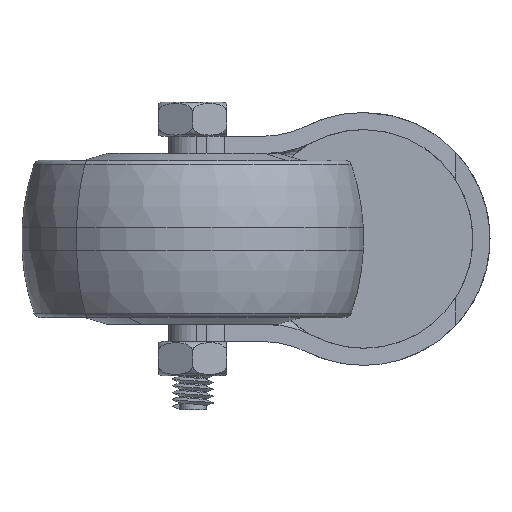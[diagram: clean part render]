
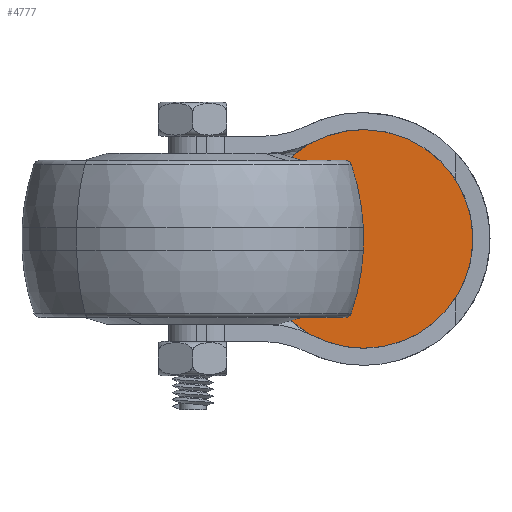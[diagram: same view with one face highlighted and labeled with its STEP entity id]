
A CAD part, front view. The second image highlights one B-rep face of the part: STEP entity #4777.
In plain terms, the highlighted planar face has unit normal (0, -1, 0).
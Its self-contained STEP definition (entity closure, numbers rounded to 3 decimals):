
#482 = DIRECTION ( 'NONE',  ( 0., 1., 0. ) ) ;
#1556 = AXIS2_PLACEMENT_3D ( 'NONE', #3148, #11783, #4394 ) ;
#1654 = AXIS2_PLACEMENT_3D ( 'NONE', #11612, #482, #6714 ) ;
#2318 = CARTESIAN_POINT ( 'NONE',  ( 0., 37.5, 0. ) ) ;
#2983 = FACE_OUTER_BOUND ( 'NONE', #10113, .T. ) ;
#3148 = CARTESIAN_POINT ( 'NONE',  ( 0., 37.5, 0. ) ) ;
#3570 = DIRECTION ( 'NONE',  ( 0., 0., 1. ) ) ;
#4142 = VERTEX_POINT ( 'NONE', #12025 ) ;
#4394 = DIRECTION ( 'NONE',  ( 0., 0., 1. ) ) ;
#4777 = ADVANCED_FACE ( 'NONE', ( #2983 ), #5477, .F. ) ;
#4901 = VERTEX_POINT ( 'NONE', #15621 ) ;
#5187 = CIRCLE ( 'NONE', #1556, 16. ) ;
#5204 = AXIS2_PLACEMENT_3D ( 'NONE', #2318, #10980, #3570 ) ;
#5477 = PLANE ( 'NONE',  #1654 ) ;
#6135 = CIRCLE ( 'NONE', #5204, 16. ) ;
#6714 = DIRECTION ( 'NONE',  ( 0., 0., 1. ) ) ;
#7500 = EDGE_CURVE ( 'NONE', #4901, #4142, #5187, .T. ) ;
#10113 = EDGE_LOOP ( 'NONE', ( #14249, #13255 ) ) ;
#10980 = DIRECTION ( 'NONE',  ( 0., 1., 0. ) ) ;
#11612 = CARTESIAN_POINT ( 'NONE',  ( 0., 37.5, 0. ) ) ;
#11783 = DIRECTION ( 'NONE',  ( 0., 1., 0. ) ) ;
#12025 = CARTESIAN_POINT ( 'NONE',  ( 0., 37.5, -16. ) ) ;
#13255 = ORIENTED_EDGE ( 'NONE', *, *, #7500, .F. ) ;
#14249 = ORIENTED_EDGE ( 'NONE', *, *, #15996, .F. ) ;
#15621 = CARTESIAN_POINT ( 'NONE',  ( 0., 37.5, 16. ) ) ;
#15996 = EDGE_CURVE ( 'NONE', #4142, #4901, #6135, .T. ) ;
